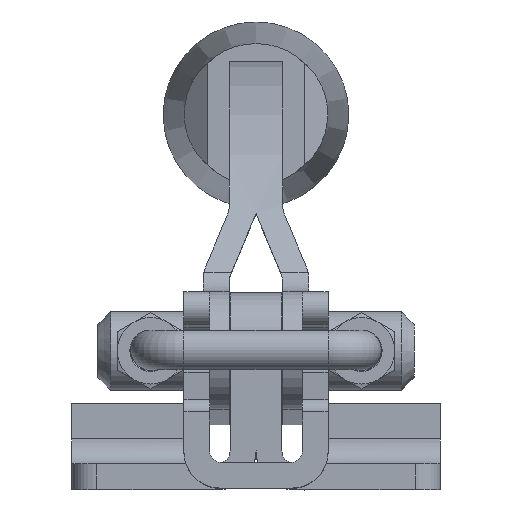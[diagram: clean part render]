
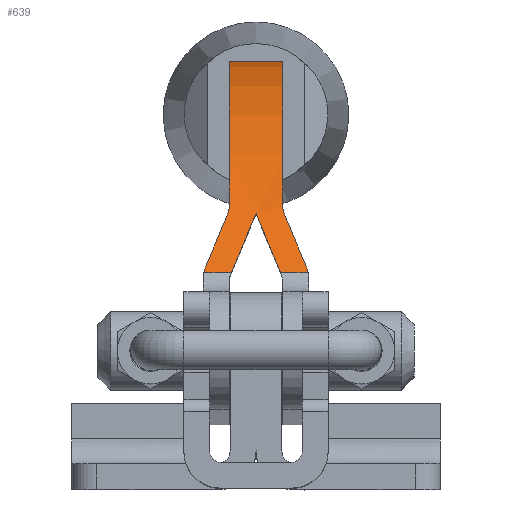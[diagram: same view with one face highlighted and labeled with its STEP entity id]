
A CAD part, top view. The second image highlights one B-rep face of the part: STEP entity #639.
In plain terms, the highlighted cylindrical face has radius 50.927 mm (diameter 101.854 mm), a partial arc.
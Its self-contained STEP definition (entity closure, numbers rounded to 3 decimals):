
#639 = ADVANCED_FACE( '', ( #1243 ), #1244, .T. );
#1243 = FACE_OUTER_BOUND( '', #1835, .T. );
#1244 = CYLINDRICAL_SURFACE( '', #1836, 50.927 );
#1835 = EDGE_LOOP( '', ( #3094, #3095, #3096, #3097, #3098, #3099, #3100, #3101, #3102, #3103, #3104, #3105, #3106 ) );
#1836 = AXIS2_PLACEMENT_3D( '', #3107, #3108, #3109 );
#3094 = ORIENTED_EDGE( '', *, *, #3815, .F. );
#3095 = ORIENTED_EDGE( '', *, *, #3893, .F. );
#3096 = ORIENTED_EDGE( '', *, *, #3665, .T. );
#3097 = ORIENTED_EDGE( '', *, *, #3902, .F. );
#3098 = ORIENTED_EDGE( '', *, *, #3517, .F. );
#3099 = ORIENTED_EDGE( '', *, *, #3576, .F. );
#3100 = ORIENTED_EDGE( '', *, *, #3819, .T. );
#3101 = ORIENTED_EDGE( '', *, *, #3416, .F. );
#3102 = ORIENTED_EDGE( '', *, *, #3401, .F. );
#3103 = ORIENTED_EDGE( '', *, *, #3879, .F. );
#3104 = ORIENTED_EDGE( '', *, *, #3523, .T. );
#3105 = ORIENTED_EDGE( '', *, *, #3873, .F. );
#3106 = ORIENTED_EDGE( '', *, *, #3903, .F. );
#3107 = CARTESIAN_POINT( '', ( 6.35, -16.002, -31.75 ) );
#3108 = DIRECTION( '', ( 1., 0., 0. ) );
#3109 = DIRECTION( '', ( 0., 0., 1. ) );
#3401 = EDGE_CURVE( '', #3953, #3956, #3957, .T. );
#3416 = EDGE_CURVE( '', #3956, #3982, #3983, .T. );
#3517 = EDGE_CURVE( '', #4157, #4160, #4161, .T. );
#3523 = EDGE_CURVE( '', #4171, #4169, #4172, .T. );
#3576 = EDGE_CURVE( '', #4259, #4157, #4261, .T. );
#3665 = EDGE_CURVE( '', #4401, #4398, #4402, .T. );
#3815 = EDGE_CURVE( '', #4613, #4615, #4616, .T. );
#3819 = EDGE_CURVE( '', #4259, #3982, #4621, .T. );
#3873 = EDGE_CURVE( '', #4688, #4169, #4690, .T. );
#3879 = EDGE_CURVE( '', #4171, #3953, #4696, .T. );
#3893 = EDGE_CURVE( '', #4401, #4613, #4711, .T. );
#3902 = EDGE_CURVE( '', #4160, #4398, #4721, .T. );
#3903 = EDGE_CURVE( '', #4615, #4688, #4722, .T. );
#3953 = VERTEX_POINT( '', #4774 );
#3956 = VERTEX_POINT( '', #4778 );
#3957 = B_SPLINE_CURVE_WITH_KNOTS( '', 3, ( #4779, #4780, #4781, #4782 ), .UNSPECIFIED., .F., .F., ( 4, 4 ), ( 0., 0.002 ), .UNSPECIFIED. );
#3982 = VERTEX_POINT( '', #4818 );
#3983 = CIRCLE( '', #4819, 50.927 );
#4157 = VERTEX_POINT( '', #5052 );
#4160 = VERTEX_POINT( '', #5056 );
#4161 = B_SPLINE_CURVE_WITH_KNOTS( '', 3, ( #5057, #5058, #5059, #5060 ), .UNSPECIFIED., .F., .F., ( 4, 4 ), ( 0., 0.002 ), .UNSPECIFIED. );
#4169 = VERTEX_POINT( '', #5075 );
#4171 = VERTEX_POINT( '', #5080 );
#4172 = B_SPLINE_CURVE_WITH_KNOTS( '', 3, ( #5081, #5082, #5083, #5084 ), .UNSPECIFIED., .F., .F., ( 4, 4 ), ( 0., 0.001 ), .UNSPECIFIED. );
#4259 = VERTEX_POINT( '', #5356 );
#4261 = CIRCLE( '', #5359, 50.927 );
#4398 = VERTEX_POINT( '', #5563 );
#4401 = VERTEX_POINT( '', #5567 );
#4402 = B_SPLINE_CURVE_WITH_KNOTS( '', 3, ( #5568, #5569, #5570, #5571 ), .UNSPECIFIED., .F., .F., ( 4, 4 ), ( 0., 0.001 ), .UNSPECIFIED. );
#4613 = VERTEX_POINT( '', #5902 );
#4615 = VERTEX_POINT( '', #5904 );
#4616 = ELLIPSE( '', #5905, 55.147, 50.927 );
#4621 = LINE( '', #5911, #5912 );
#4688 = VERTEX_POINT( '', #6010 );
#4690 = LINE( '', #6012, #6013 );
#4696 = ELLIPSE( '', #6021, 55.147, 50.927 );
#4711 = LINE( '', #6044, #6045 );
#4721 = ELLIPSE( '', #6057, 55.147, 50.927 );
#4722 = ELLIPSE( '', #6058, 55.147, 50.927 );
#4774 = CARTESIAN_POINT( '', ( -3.459, 16.357, 7.575 ) );
#4778 = CARTESIAN_POINT( '', ( -3.226, 17.526, 6.583 ) );
#4779 = CARTESIAN_POINT( '', ( -3.459, 16.357, 7.575 ) );
#4780 = CARTESIAN_POINT( '', ( -3.299, 16.742, 7.258 ) );
#4781 = CARTESIAN_POINT( '', ( -3.226, 17.132, 6.928 ) );
#4782 = CARTESIAN_POINT( '', ( -3.226, 17.526, 6.583 ) );
#4818 = CARTESIAN_POINT( '', ( -3.226, 34.925, -31.75 ) );
#4819 = AXIS2_PLACEMENT_3D( '', #6172, #6173, #6174 );
#5052 = CARTESIAN_POINT( '', ( 3.226, 17.526, 6.583 ) );
#5056 = CARTESIAN_POINT( '', ( 3.459, 16.357, 7.575 ) );
#5057 = CARTESIAN_POINT( '', ( 3.226, 17.526, 6.583 ) );
#5058 = CARTESIAN_POINT( '', ( 3.226, 17.132, 6.928 ) );
#5059 = CARTESIAN_POINT( '', ( 3.299, 16.742, 7.258 ) );
#5060 = CARTESIAN_POINT( '', ( 3.459, 16.357, 7.575 ) );
#5075 = CARTESIAN_POINT( '', ( -6.288, 9.403, 12.388 ) );
#5080 = CARTESIAN_POINT( '', ( -6.117, 9.959, 12.063 ) );
#5081 = CARTESIAN_POINT( '', ( -6.117, 9.959, 12.063 ) );
#5082 = CARTESIAN_POINT( '', ( -6.192, 9.779, 12.17 ) );
#5083 = CARTESIAN_POINT( '', ( -6.249, 9.593, 12.278 ) );
#5084 = CARTESIAN_POINT( '', ( -6.288, 9.403, 12.388 ) );
#5356 = CARTESIAN_POINT( '', ( 3.226, 34.925, -31.75 ) );
#5359 = AXIS2_PLACEMENT_3D( '', #6386, #6387, #6388 );
#5563 = CARTESIAN_POINT( '', ( 6.117, 9.959, 12.063 ) );
#5567 = CARTESIAN_POINT( '', ( 6.288, 9.403, 12.388 ) );
#5568 = CARTESIAN_POINT( '', ( 6.288, 9.403, 12.388 ) );
#5569 = CARTESIAN_POINT( '', ( 6.249, 9.593, 12.278 ) );
#5570 = CARTESIAN_POINT( '', ( 6.192, 9.779, 12.17 ) );
#5571 = CARTESIAN_POINT( '', ( 6.117, 9.959, 12.063 ) );
#5902 = CARTESIAN_POINT( '', ( 2.965, 9.403, 12.388 ) );
#5904 = CARTESIAN_POINT( '', ( 0., 16.539, 7.424 ) );
#5905 = AXIS2_PLACEMENT_3D( '', #6688, #6689, #6690 );
#5911 = CARTESIAN_POINT( '', ( 6.35, 34.925, -31.75 ) );
#5912 = VECTOR( '', #6695, 1000. );
#6010 = CARTESIAN_POINT( '', ( -2.965, 9.403, 12.388 ) );
#6012 = CARTESIAN_POINT( '', ( 6.35, 9.403, 12.388 ) );
#6013 = VECTOR( '', #6765, 1000. );
#6021 = AXIS2_PLACEMENT_3D( '', #6768, #6769, #6770 );
#6044 = CARTESIAN_POINT( '', ( 6.35, 9.403, 12.388 ) );
#6045 = VECTOR( '', #6780, 1000. );
#6057 = AXIS2_PLACEMENT_3D( '', #6786, #6787, #6788 );
#6058 = AXIS2_PLACEMENT_3D( '', #6789, #6790, #6791 );
#6172 = CARTESIAN_POINT( '', ( -3.226, -16.002, -31.75 ) );
#6173 = DIRECTION( '', ( -1., 0., 0. ) );
#6174 = DIRECTION( '', ( 0., -1., 0. ) );
#6386 = CARTESIAN_POINT( '', ( 3.226, -16.002, -31.75 ) );
#6387 = DIRECTION( '', ( 1., 0., 0. ) );
#6388 = DIRECTION( '', ( 0., 1., 0. ) );
#6688 = CARTESIAN_POINT( '', ( 13.519, -16.002, -31.75 ) );
#6689 = DIRECTION( '', ( -0.923, -0.384, 0. ) );
#6690 = DIRECTION( '', ( -0.384, 0.923, 0. ) );
#6695 = DIRECTION( '', ( -1., 0., 0. ) );
#6765 = DIRECTION( '', ( -1., 0., 0. ) );
#6768 = CARTESIAN_POINT( '', ( -16.902, -16.002, -31.75 ) );
#6769 = DIRECTION( '', ( -0.923, 0.384, 0. ) );
#6770 = DIRECTION( '', ( -0.384, -0.923, 0. ) );
#6780 = DIRECTION( '', ( -1., 0., 0. ) );
#6786 = CARTESIAN_POINT( '', ( 16.902, -16.002, -31.75 ) );
#6787 = DIRECTION( '', ( 0.923, 0.384, 0. ) );
#6788 = DIRECTION( '', ( -0.384, 0.923, 0. ) );
#6789 = CARTESIAN_POINT( '', ( -13.519, -16.002, -31.75 ) );
#6790 = DIRECTION( '', ( 0.923, -0.384, 0. ) );
#6791 = DIRECTION( '', ( -0.384, -0.923, 0. ) );
